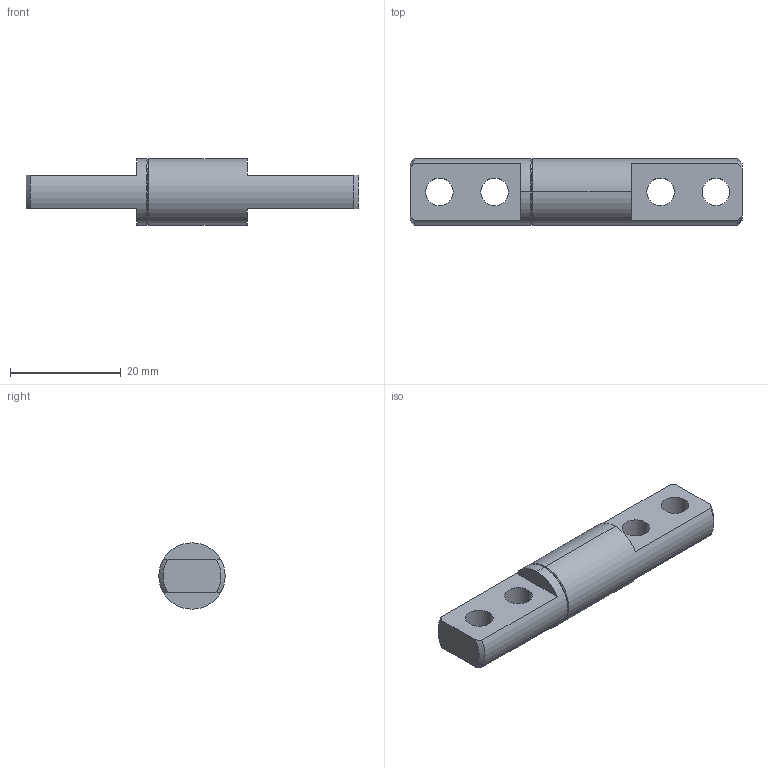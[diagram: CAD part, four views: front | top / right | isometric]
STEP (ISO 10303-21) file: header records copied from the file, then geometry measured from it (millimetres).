
FILE_DESCRIPTION (( 'STEP AP203' ), '1' );
FILE_NAME ('XG11-076-6.STEP', '2025-07-12T01:06:23', ( '微软用户' ), ( '微软中国' ), 'SwSTEP 2.0', 'SolidWorks 2024', '' );
FILE_SCHEMA (( 'CONFIG_CONTROL_DESIGN' ));
Length unit declared in the file: millimetre
Products named in the file (1): XG11-076-6
Bounding box: 60 x 12 x 12 mm (x, y, z)
Volume: 4537.3 mm3; surface area: 2526.7 mm2
Topology: 1 solids, 1 shells, 30 faces, 78 edges, 50 vertices
Faces by surface type: cylinder 12, plane 10, torus 4, cone 4
Entity records: 1037 total; most frequent: CARTESIAN_POINT 183, DIRECTION 174, ORIENTED_EDGE 156, EDGE_CURVE 78, AXIS2_PLACEMENT_3D 73, VERTEX_POINT 50, CIRCLE 42, EDGE_LOOP 38
